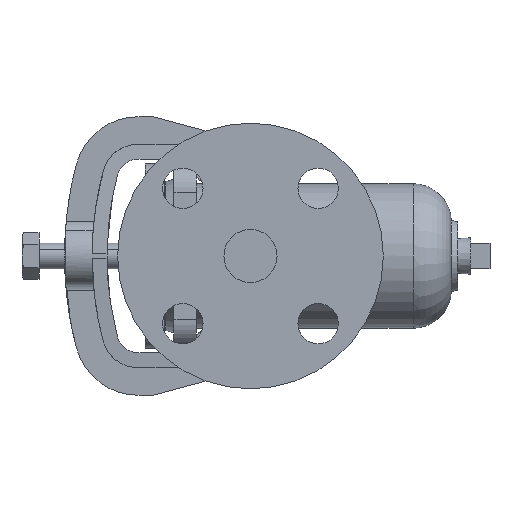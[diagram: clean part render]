
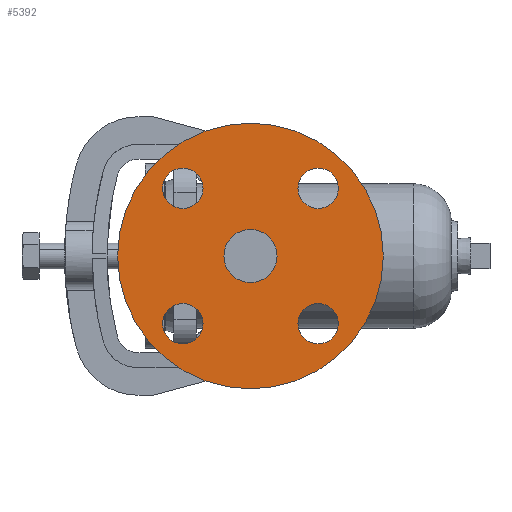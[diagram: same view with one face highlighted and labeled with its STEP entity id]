
A CAD part, left-side view. The second image highlights one B-rep face of the part: STEP entity #5392.
In plain terms, the highlighted planar face has unit normal (-1, 0, 0).
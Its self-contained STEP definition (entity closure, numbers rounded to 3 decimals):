
#101 = CARTESIAN_POINT ( 'NONE',  ( -83., -31.82, 31.82 ) ) ;
#200 = CARTESIAN_POINT ( 'NONE',  ( -83., -31.82, 22.32 ) ) ;
#228 = AXIS2_PLACEMENT_3D ( 'NONE', #101, #2565, #3053 ) ;
#364 = EDGE_CURVE ( 'NONE', #4527, #7492, #658, .T. ) ;
#375 = VERTEX_POINT ( 'NONE', #718 ) ;
#418 = CARTESIAN_POINT ( 'NONE',  ( -83., 31.82, 31.82 ) ) ;
#430 = AXIS2_PLACEMENT_3D ( 'NONE', #2381, #4860, #2996 ) ;
#437 = AXIS2_PLACEMENT_3D ( 'NONE', #7138, #7175, #2916 ) ;
#512 = AXIS2_PLACEMENT_3D ( 'NONE', #1028, #3505, #5977 ) ;
#527 = DIRECTION ( 'NONE',  ( 0., 0., 1. ) ) ;
#559 = ORIENTED_EDGE ( 'NONE', *, *, #2812, .F. ) ;
#617 = VERTEX_POINT ( 'NONE', #3927 ) ;
#638 = CIRCLE ( 'NONE', #5173, 9.5 ) ;
#658 = CIRCLE ( 'NONE', #1437, 9.5 ) ;
#705 = DIRECTION ( 'NONE',  ( 0., 1., 0. ) ) ;
#718 = CARTESIAN_POINT ( 'NONE',  ( -83., 0., -62.5 ) ) ;
#764 = EDGE_CURVE ( 'NONE', #617, #2828, #3235, .T. ) ;
#975 = CARTESIAN_POINT ( 'NONE',  ( -83., 31.82, -22.32 ) ) ;
#1008 = ORIENTED_EDGE ( 'NONE', *, *, #764, .F. ) ;
#1028 = CARTESIAN_POINT ( 'NONE',  ( -83., 0., 0. ) ) ;
#1151 = CIRCLE ( 'NONE', #1672, 9.5 ) ;
#1165 = FACE_BOUND ( 'NONE', #6153, .T. ) ;
#1224 = DIRECTION ( 'NONE',  ( -1., 0., 0. ) ) ;
#1281 = DIRECTION ( 'NONE',  ( -1., 0., 0. ) ) ;
#1432 = CARTESIAN_POINT ( 'NONE',  ( -83., 31.82, 22.32 ) ) ;
#1437 = AXIS2_PLACEMENT_3D ( 'NONE', #5612, #1281, #6874 ) ;
#1672 = AXIS2_PLACEMENT_3D ( 'NONE', #7429, #1224, #4961 ) ;
#1879 = EDGE_CURVE ( 'NONE', #7492, #4527, #6448, .T. ) ;
#1892 = FACE_BOUND ( 'NONE', #6054, .T. ) ;
#2128 = CARTESIAN_POINT ( 'NONE',  ( -83., -31.82, 41.32 ) ) ;
#2162 = AXIS2_PLACEMENT_3D ( 'NONE', #4795, #3928, #6399 ) ;
#2168 = EDGE_CURVE ( 'NONE', #2360, #4830, #2409, .T. ) ;
#2177 = ORIENTED_EDGE ( 'NONE', *, *, #2168, .F. ) ;
#2360 = VERTEX_POINT ( 'NONE', #1432 ) ;
#2381 = CARTESIAN_POINT ( 'NONE',  ( -83., 31.82, -31.82 ) ) ;
#2409 = CIRCLE ( 'NONE', #4877, 9.5 ) ;
#2565 = DIRECTION ( 'NONE',  ( -1., 0., 0. ) ) ;
#2623 = EDGE_CURVE ( 'NONE', #2828, #617, #7426, .T. ) ;
#2635 = AXIS2_PLACEMENT_3D ( 'NONE', #5542, #4382, #527 ) ;
#2678 = VERTEX_POINT ( 'NONE', #975 ) ;
#2743 = EDGE_CURVE ( 'NONE', #6678, #375, #6132, .T. ) ;
#2750 = EDGE_CURVE ( 'NONE', #3787, #2678, #7163, .T. ) ;
#2758 = CIRCLE ( 'NONE', #5223, 9.5 ) ;
#2812 = EDGE_CURVE ( 'NONE', #2678, #3787, #2758, .T. ) ;
#2828 = VERTEX_POINT ( 'NONE', #7372 ) ;
#2883 = DIRECTION ( 'NONE',  ( -1., 0., 0. ) ) ;
#2916 = DIRECTION ( 'NONE',  ( 0., 0., 1. ) ) ;
#2988 = FACE_BOUND ( 'NONE', #3711, .T. ) ;
#2996 = DIRECTION ( 'NONE',  ( 0., 0., 1. ) ) ;
#3053 = DIRECTION ( 'NONE',  ( 0., 0., -1. ) ) ;
#3079 = DIRECTION ( 'NONE',  ( -1., 0., 0. ) ) ;
#3086 = EDGE_LOOP ( 'NONE', ( #5306, #6463 ) ) ;
#3198 = CARTESIAN_POINT ( 'NONE',  ( -83., -31.82, -41.32 ) ) ;
#3235 = CIRCLE ( 'NONE', #512, 12.5 ) ;
#3505 = DIRECTION ( 'NONE',  ( -1., 0., 0. ) ) ;
#3674 = AXIS2_PLACEMENT_3D ( 'NONE', #6195, #4937, #5494 ) ;
#3681 = DIRECTION ( 'NONE',  ( -1., 0., 0. ) ) ;
#3711 = EDGE_LOOP ( 'NONE', ( #559, #6549 ) ) ;
#3787 = VERTEX_POINT ( 'NONE', #4570 ) ;
#3890 = EDGE_CURVE ( 'NONE', #4830, #2360, #4503, .T. ) ;
#3919 = EDGE_LOOP ( 'NONE', ( #6334, #1008 ) ) ;
#3927 = CARTESIAN_POINT ( 'NONE',  ( -83., 0., -12.5 ) ) ;
#3928 = DIRECTION ( 'NONE',  ( -1., 0., 0. ) ) ;
#3940 = ORIENTED_EDGE ( 'NONE', *, *, #6383, .F. ) ;
#4211 = DIRECTION ( 'NONE',  ( 0., 0., 1. ) ) ;
#4286 = PLANE ( 'NONE',  #3674 ) ;
#4321 = CIRCLE ( 'NONE', #7945, 62.5 ) ;
#4329 = VERTEX_POINT ( 'NONE', #6710 ) ;
#4382 = DIRECTION ( 'NONE',  ( -1., 0., 0. ) ) ;
#4503 = CIRCLE ( 'NONE', #2162, 9.5 ) ;
#4527 = VERTEX_POINT ( 'NONE', #2128 ) ;
#4554 = ORIENTED_EDGE ( 'NONE', *, *, #3890, .F. ) ;
#4570 = CARTESIAN_POINT ( 'NONE',  ( -83., 31.82, -41.32 ) ) ;
#4795 = CARTESIAN_POINT ( 'NONE',  ( -83., 31.82, 31.82 ) ) ;
#4830 = VERTEX_POINT ( 'NONE', #7737 ) ;
#4854 = FACE_BOUND ( 'NONE', #7339, .T. ) ;
#4860 = DIRECTION ( 'NONE',  ( -1., 0., 0. ) ) ;
#4877 = AXIS2_PLACEMENT_3D ( 'NONE', #418, #2883, #5352 ) ;
#4937 = DIRECTION ( 'NONE',  ( 1., 0., 0. ) ) ;
#4961 = DIRECTION ( 'NONE',  ( 0., 1., 0. ) ) ;
#5156 = ORIENTED_EDGE ( 'NONE', *, *, #1879, .F. ) ;
#5173 = AXIS2_PLACEMENT_3D ( 'NONE', #7999, #7346, #705 ) ;
#5223 = AXIS2_PLACEMENT_3D ( 'NONE', #7500, #3079, #6120 ) ;
#5277 = CARTESIAN_POINT ( 'NONE',  ( -83., 0., 62.5 ) ) ;
#5304 = VERTEX_POINT ( 'NONE', #3198 ) ;
#5306 = ORIENTED_EDGE ( 'NONE', *, *, #2743, .T. ) ;
#5352 = DIRECTION ( 'NONE',  ( 0., -1., 0. ) ) ;
#5386 = EDGE_CURVE ( 'NONE', #375, #6678, #4321, .T. ) ;
#5392 = ADVANCED_FACE ( 'NONE', ( #1892, #4854, #1165, #2988, #6110, #5456 ), #4286, .F. ) ;
#5456 = FACE_OUTER_BOUND ( 'NONE', #3086, .T. ) ;
#5494 = DIRECTION ( 'NONE',  ( 0., 0., -1. ) ) ;
#5542 = CARTESIAN_POINT ( 'NONE',  ( -83., 0., 0. ) ) ;
#5612 = CARTESIAN_POINT ( 'NONE',  ( -83., -31.82, 31.82 ) ) ;
#5977 = DIRECTION ( 'NONE',  ( 0., 0., 1. ) ) ;
#6054 = EDGE_LOOP ( 'NONE', ( #3940, #6786 ) ) ;
#6110 = FACE_BOUND ( 'NONE', #3919, .T. ) ;
#6120 = DIRECTION ( 'NONE',  ( 0., 0., 1. ) ) ;
#6132 = CIRCLE ( 'NONE', #2635, 62.5 ) ;
#6151 = CARTESIAN_POINT ( 'NONE',  ( -83., 0., 0. ) ) ;
#6153 = EDGE_LOOP ( 'NONE', ( #4554, #2177 ) ) ;
#6195 = CARTESIAN_POINT ( 'NONE',  ( -83., 0., 0. ) ) ;
#6334 = ORIENTED_EDGE ( 'NONE', *, *, #2623, .F. ) ;
#6383 = EDGE_CURVE ( 'NONE', #4329, #5304, #638, .T. ) ;
#6399 = DIRECTION ( 'NONE',  ( 0., -1., 0. ) ) ;
#6414 = EDGE_CURVE ( 'NONE', #5304, #4329, #1151, .T. ) ;
#6448 = CIRCLE ( 'NONE', #228, 9.5 ) ;
#6463 = ORIENTED_EDGE ( 'NONE', *, *, #5386, .T. ) ;
#6549 = ORIENTED_EDGE ( 'NONE', *, *, #2750, .F. ) ;
#6678 = VERTEX_POINT ( 'NONE', #5277 ) ;
#6710 = CARTESIAN_POINT ( 'NONE',  ( -83., -31.82, -22.32 ) ) ;
#6786 = ORIENTED_EDGE ( 'NONE', *, *, #6414, .F. ) ;
#6874 = DIRECTION ( 'NONE',  ( 0., 0., -1. ) ) ;
#7118 = ORIENTED_EDGE ( 'NONE', *, *, #364, .F. ) ;
#7138 = CARTESIAN_POINT ( 'NONE',  ( -83., 0., 0. ) ) ;
#7163 = CIRCLE ( 'NONE', #430, 9.5 ) ;
#7175 = DIRECTION ( 'NONE',  ( -1., 0., 0. ) ) ;
#7339 = EDGE_LOOP ( 'NONE', ( #7118, #5156 ) ) ;
#7346 = DIRECTION ( 'NONE',  ( -1., 0., 0. ) ) ;
#7372 = CARTESIAN_POINT ( 'NONE',  ( -83., 0., 12.5 ) ) ;
#7426 = CIRCLE ( 'NONE', #437, 12.5 ) ;
#7429 = CARTESIAN_POINT ( 'NONE',  ( -83., -31.82, -31.82 ) ) ;
#7492 = VERTEX_POINT ( 'NONE', #200 ) ;
#7500 = CARTESIAN_POINT ( 'NONE',  ( -83., 31.82, -31.82 ) ) ;
#7737 = CARTESIAN_POINT ( 'NONE',  ( -83., 31.82, 41.32 ) ) ;
#7945 = AXIS2_PLACEMENT_3D ( 'NONE', #6151, #3681, #4211 ) ;
#7999 = CARTESIAN_POINT ( 'NONE',  ( -83., -31.82, -31.82 ) ) ;
